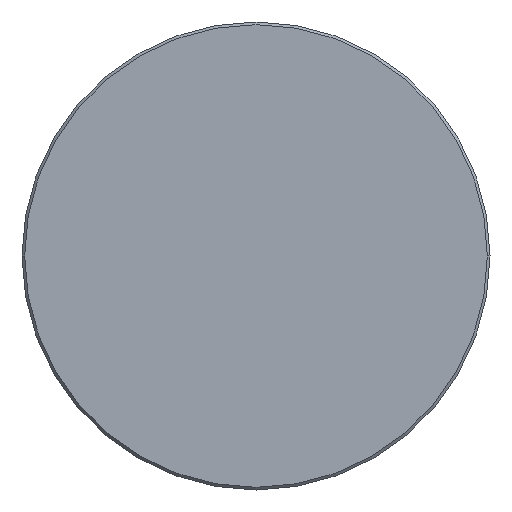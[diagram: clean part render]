
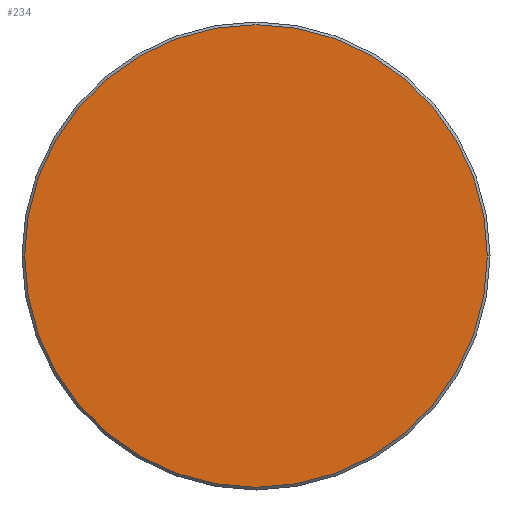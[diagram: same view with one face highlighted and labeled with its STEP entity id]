
A CAD part, left-side view. The second image highlights one B-rep face of the part: STEP entity #234.
In plain terms, the highlighted planar face has unit normal (-1, 0, 0).
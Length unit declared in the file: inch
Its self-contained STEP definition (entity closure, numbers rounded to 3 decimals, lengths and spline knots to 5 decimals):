
#21 = VERTEX_POINT ( 'NONE', #191 ) ;
#24 = CARTESIAN_POINT ( 'NONE',  ( 0., 0., 0. ) ) ;
#61 = DIRECTION ( 'NONE',  ( 0., -1., 0. ) ) ;
#77 = CIRCLE ( 'NONE', #242, 0.34756 ) ;
#83 = CARTESIAN_POINT ( 'NONE',  ( 0., 0., 0. ) ) ;
#86 = DIRECTION ( 'NONE',  ( -1., 0., 0. ) ) ;
#100 = FACE_OUTER_BOUND ( 'NONE', #121, .T. ) ;
#102 = VERTEX_POINT ( 'NONE', #318 ) ;
#121 = EDGE_LOOP ( 'NONE', ( #147, #140 ) ) ;
#123 = EDGE_CURVE ( 'NONE', #21, #102, #266, .T. ) ;
#124 = DIRECTION ( 'NONE',  ( -1., 0., 0. ) ) ;
#140 = ORIENTED_EDGE ( 'NONE', *, *, #123, .T. ) ;
#147 = ORIENTED_EDGE ( 'NONE', *, *, #201, .T. ) ;
#154 = AXIS2_PLACEMENT_3D ( 'NONE', #270, #124, #61 ) ;
#191 = CARTESIAN_POINT ( 'NONE',  ( 0., -0.34756, 0. ) ) ;
#201 = EDGE_CURVE ( 'NONE', #102, #21, #77, .T. ) ;
#209 = DIRECTION ( 'NONE',  ( 0., -1., 0. ) ) ;
#234 = ADVANCED_FACE ( 'NONE', ( #100 ), #240, .T. ) ;
#240 = PLANE ( 'NONE',  #154 ) ;
#242 = AXIS2_PLACEMENT_3D ( 'NONE', #24, #264, #209 ) ;
#264 = DIRECTION ( 'NONE',  ( -1., 0., 0. ) ) ;
#266 = CIRCLE ( 'NONE', #365, 0.34756 ) ;
#270 = CARTESIAN_POINT ( 'NONE',  ( 0., 0., 0. ) ) ;
#298 = DIRECTION ( 'NONE',  ( 0., -1., 0. ) ) ;
#318 = CARTESIAN_POINT ( 'NONE',  ( 0., 0.34756, 0. ) ) ;
#365 = AXIS2_PLACEMENT_3D ( 'NONE', #83, #86, #298 ) ;
